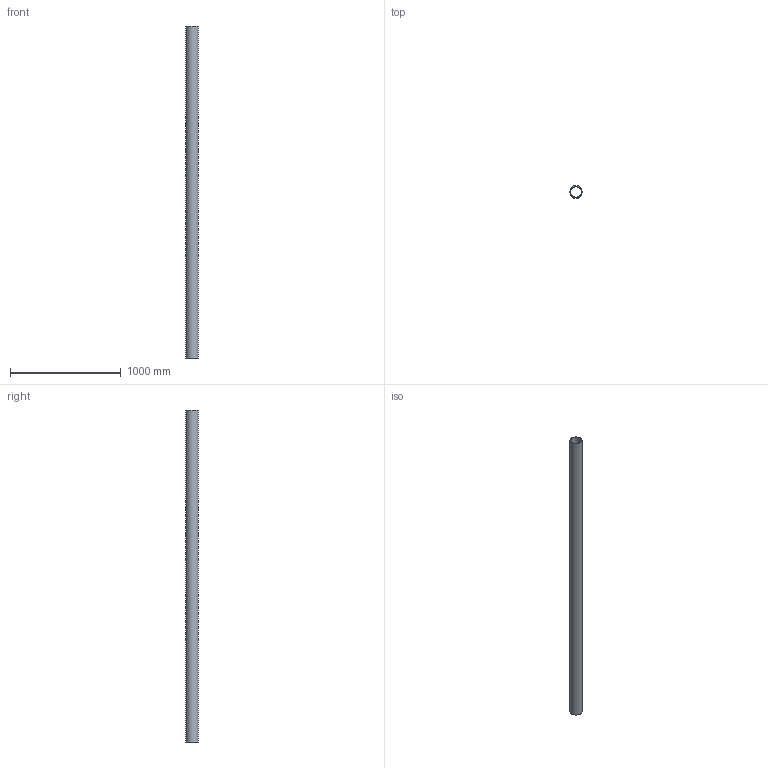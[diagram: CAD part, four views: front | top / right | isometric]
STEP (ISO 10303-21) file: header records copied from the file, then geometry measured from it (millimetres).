
FILE_DESCRIPTION(/* description */ (''),/* implementation_level */ '2;1');
FILE_NAME(/* name */ 'Z:\Geberit\Export\Export18\Rohr PE_Ipart\stp\310000.stp',/* time_stamp */ '2014-08-26T22:08:07+02:00',/* author */ ('Bründl'),/* organization */ (''),/* preprocessor_version */ 'ST-DEVELOPER v15.2',/* originating_system */ 'Autodesk Inventor 2014',/* authorisation */ '');
FILE_SCHEMA (('AUTOMOTIVE_DESIGN { 1 0 10303 214 3 1 1 }'));
Length unit declared in the file: millimetre
Products named in the file (1): 310000
Bounding box: 110 x 110 x 3000 mm (x, y, z)
Volume: 5881061.4 mm3; surface area: 1964274.5 mm2
Topology: 1 solids, 1 shells, 4 faces, 6 edges, 4 vertices
Faces by surface type: cylinder 2, plane 2
Full cylindrical faces by diameter (mm): 98 x1, 110 x1
Entity records: 113 total; most frequent: DIRECTION 18, CARTESIAN_POINT 13, AXIS2_PLACEMENT_3D 9, EDGE_LOOP 8, ORIENTED_EDGE 8, FACE_BOUND 6, STYLED_ITEM 5, CIRCLE 4
